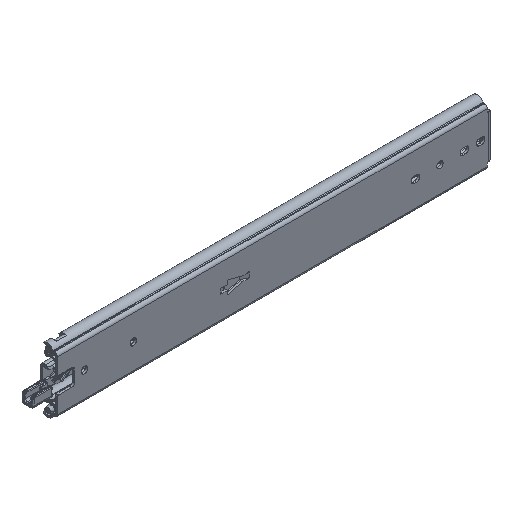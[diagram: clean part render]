
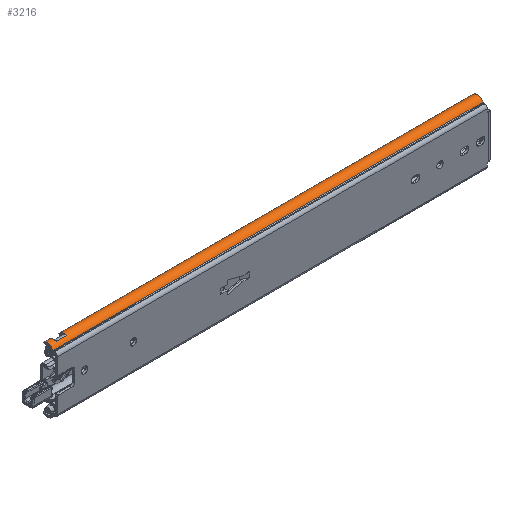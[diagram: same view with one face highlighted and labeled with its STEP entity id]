
A CAD part, isometric view. The second image highlights one B-rep face of the part: STEP entity #3216.
In plain terms, the highlighted cylindrical face has radius 7.25 mm (diameter 14.5 mm), a partial arc.
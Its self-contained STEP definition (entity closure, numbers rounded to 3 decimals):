
#5=CARTESIAN_POINT('',(0.,11.5,30.4));
#6=DIRECTION('',(1.,0.,0.));
#7=DIRECTION('',(0.,0.632,0.775));
#8=AXIS2_PLACEMENT_3D('',#5,#6,#7);
#825=CARTESIAN_POINT('',(503.,11.5,30.4));
#826=DIRECTION('',(1.,0.,0.));
#827=DIRECTION('',(0.,0.38,0.925));
#828=AXIS2_PLACEMENT_3D('',#825,#826,#827);
#874=CARTESIAN_POINT('',(1.401,17.079,35.031));
#875=CARTESIAN_POINT('',(0.932,16.779,35.392));
#876=CARTESIAN_POINT('',(0.465,16.446,35.722));
#877=CARTESIAN_POINT('',(0.,16.079,36.021));
#879=DIRECTION('',(1.,0.,0.));
#880=VECTOR('',#879,6.099);
#881=CARTESIAN_POINT('',(1.401,17.079,35.031));
#882=LINE('',#881,#880);
#883=CARTESIAN_POINT('',(7.5,11.5,30.4));
#884=DIRECTION('',(1.,0.,0.));
#885=DIRECTION('',(0.,0.769,0.639));
#886=AXIS2_PLACEMENT_3D('',#883,#884,#885);
#888=CARTESIAN_POINT('',(19.5,11.5,30.4));
#889=DIRECTION('',(1.,0.,0.));
#890=DIRECTION('',(0.,0.769,0.639));
#891=AXIS2_PLACEMENT_3D('',#888,#889,#890);
#893=DIRECTION('',(1.,0.,0.));
#894=VECTOR('',#893,482.165);
#895=CARTESIAN_POINT('',(19.5,17.079,35.031));
#896=LINE('',#895,#894);
#897=CARTESIAN_POINT('',(503.,14.255,37.106));
#898=CARTESIAN_POINT('',(503.,14.611,36.96));
#899=CARTESIAN_POINT('',(502.931,15.26,36.627));
#900=CARTESIAN_POINT('',(502.637,16.055,36.065));
#901=CARTESIAN_POINT('',(502.189,16.669,35.501));
#902=CARTESIAN_POINT('',(501.845,16.955,35.18));
#903=CARTESIAN_POINT('',(501.665,17.079,35.031));
#905=DIRECTION('',(1.,0.,0.));
#906=VECTOR('',#905,503.);
#907=CARTESIAN_POINT('',(0.,4.916,33.436));
#908=LINE('',#907,#906);
#1217=DIRECTION('',(1.,0.,0.));
#1218=VECTOR('',#1217,12.);
#1219=CARTESIAN_POINT('',(7.5,8.515,37.007));
#1220=LINE('',#1219,#1218);
#1672=CARTESIAN_POINT('',(0.,4.916,33.436));
#1674=VERTEX_POINT('',#1672);
#1696=CARTESIAN_POINT('',(7.5,17.079,35.031));
#1698=VERTEX_POINT('',#1696);
#1700=CARTESIAN_POINT('',(19.5,17.079,35.031));
#1702=VERTEX_POINT('',#1700);
#1747=CARTESIAN_POINT('',(7.5,8.515,37.007));
#1748=VERTEX_POINT('',#1747);
#1749=CARTESIAN_POINT('',(19.5,8.515,37.007));
#1750=VERTEX_POINT('',#1749);
#2046=CARTESIAN_POINT('',(503.,4.916,33.436));
#2047=VERTEX_POINT('',#2046);
#2104=VERTEX_POINT('',#897);
#2105=VERTEX_POINT('',#903);
#2128=CARTESIAN_POINT('',(1.401,17.079,35.031));
#2129=VERTEX_POINT('',#2128);
#2130=VERTEX_POINT('',#877);
#3193=CARTESIAN_POINT('',(0.,11.5,30.4));
#3194=DIRECTION('',(1.,0.,0.));
#3195=DIRECTION('',(0.,-1.,0.));
#3196=AXIS2_PLACEMENT_3D('',#3193,#3194,#3195);
#3197=CYLINDRICAL_SURFACE('',#3196,7.25);
#3198=ORIENTED_EDGE('',*,*,#2225,.F.);
#3200=ORIENTED_EDGE('',*,*,#3199,.T.);
#3202=ORIENTED_EDGE('',*,*,#3201,.T.);
#3204=ORIENTED_EDGE('',*,*,#3203,.T.);
#3206=ORIENTED_EDGE('',*,*,#3205,.F.);
#3208=ORIENTED_EDGE('',*,*,#3207,.T.);
#3209=ORIENTED_EDGE('',*,*,#3180,.F.);
#3210=ORIENTED_EDGE('',*,*,#3141,.T.);
#3212=ORIENTED_EDGE('',*,*,#3211,.F.);
#3213=ORIENTED_EDGE('',*,*,#2147,.F.);
#3214=EDGE_LOOP('',(#3198,#3200,#3202,#3204,#3206,#3208,#3209,#3210,#3212,
#3213));
#3215=FACE_OUTER_BOUND('',#3214,.F.);
#9=CIRCLE('',#8,7.25);
#829=CIRCLE('',#828,7.25);
#878=B_SPLINE_CURVE_WITH_KNOTS('',3,(#874,#875,#876,#877),.UNSPECIFIED.,.F.,.F.,
(4,4),(0.,1.),.UNSPECIFIED.);
#887=CIRCLE('',#886,7.25);
#892=CIRCLE('',#891,7.25);
#904=B_SPLINE_CURVE_WITH_KNOTS('',3,(#897,#898,#899,#900,#901,#902,#903),
.UNSPECIFIED.,.F.,.F.,(4,1,1,1,4),(0.,0.25,0.5,0.75,1.),
.UNSPECIFIED.);
#2147=EDGE_CURVE('',#2130,#1674,#9,.T.);
#2225=EDGE_CURVE('',#2129,#2130,#878,.T.);
#3141=EDGE_CURVE('',#2104,#2047,#829,.T.);
#3180=EDGE_CURVE('',#2104,#2105,#904,.T.);
#3199=EDGE_CURVE('',#2129,#1698,#882,.T.);
#3201=EDGE_CURVE('',#1698,#1748,#887,.T.);
#3203=EDGE_CURVE('',#1748,#1750,#1220,.T.);
#3205=EDGE_CURVE('',#1702,#1750,#892,.T.);
#3207=EDGE_CURVE('',#1702,#2105,#896,.T.);
#3211=EDGE_CURVE('',#1674,#2047,#908,.T.);
#3216=ADVANCED_FACE('',(#3215),#3197,.T.);
